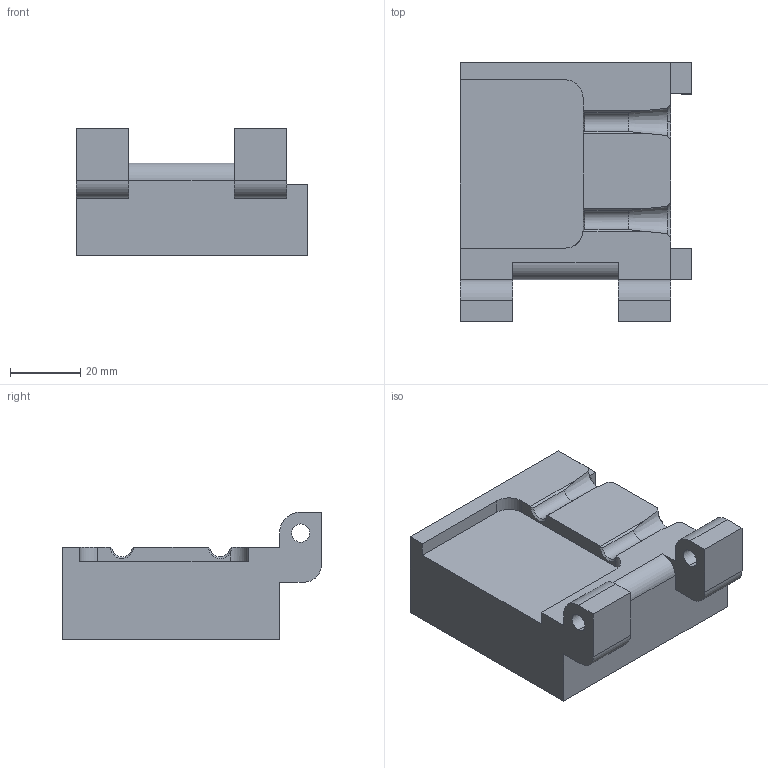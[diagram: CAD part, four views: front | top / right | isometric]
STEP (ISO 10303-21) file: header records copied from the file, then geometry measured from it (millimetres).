
FILE_DESCRIPTION (( 'STEP AP214' ), '1' );
FILE_NAME ('GZ28.06_V1狟揤輸.STEP', '2021-04-11T16:02:26', ( 'hp' ), ( '' ), 'SwSTEP 2.0', 'SolidWorks 2017', '' );
FILE_SCHEMA (( 'AUTOMOTIVE_DESIGN' ));
Length unit declared in the file: millimetre
Products named in the file (1): GZ28.06_V1狟揤輸
Bounding box: 66 x 74 x 36.5 mm (x, y, z)
Volume: 94792.7 mm3; surface area: 18671.4 mm2
Topology: 1 solids, 1 shells, 75 faces, 207 edges, 130 vertices
Faces by surface type: plane 38, cylinder 21, cone 15, bspline 1
Entity records: 2526 total; most frequent: CARTESIAN_POINT 526, ORIENTED_EDGE 398, DIRECTION 379, EDGE_CURVE 199, VERTEX_POINT 130, LINE 129, VECTOR 129, AXIS2_PLACEMENT_3D 125
